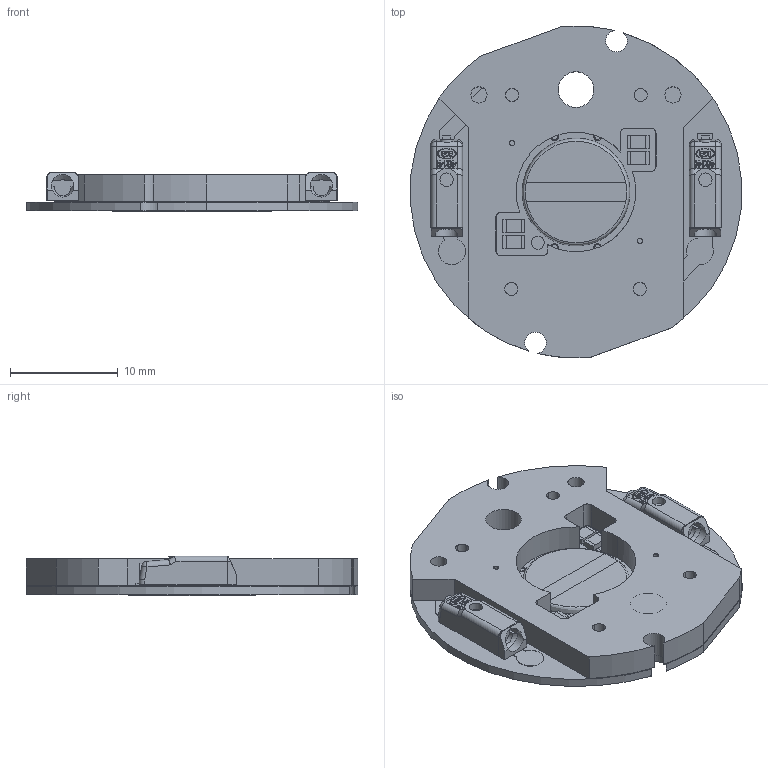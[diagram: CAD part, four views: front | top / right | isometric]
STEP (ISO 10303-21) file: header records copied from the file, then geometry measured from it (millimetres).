
FILE_DESCRIPTION (( 'STEP AP214' ), '1' );
FILE_NAME ('DW 9 Holder-CoB Assembly.STEP', '2020-08-15T00:42:12', ( '' ), ( '' ), 'SwSTEP 2.0', 'SolidWorks 2020', '' );
FILE_SCHEMA (( 'AUTOMOTIVE_DESIGN' ));
Length unit declared in the file: millimetre
Products named in the file (1): DW 9 Holder-CoB Assembly
Bounding box: 30.74 x 30.8 x 3.66 mm (x, y, z)
Volume: 1792.4 mm3; surface area: 3311.1 mm2
Topology: 1 solids, 10 shells, 858 faces, 2258 edges, 1481 vertices
Faces by surface type: plane 572, cylinder 257, bspline 23, sphere 4, cone 2
Full cylindrical faces by diameter (mm): 0.5 x4, 0.7 x4, 1.2 x1, 1.25 x2, 1.4 x1, 1.5 x2, 2.1 x2, 3.3 x2, 3.5 x2, 8.8 x1
Entity records: 38670 total; most frequent: CARTESIAN_POINT 7946, ORIENTED_EDGE 4442, DIRECTION 4242, EDGE_CURVE 2221, LINE 1640, VECTOR 1640, VERTEX_POINT 1476, AXIS2_PLACEMENT_3D 1301
